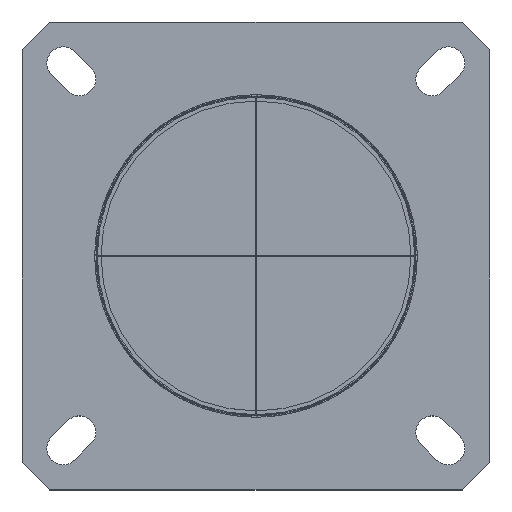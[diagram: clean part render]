
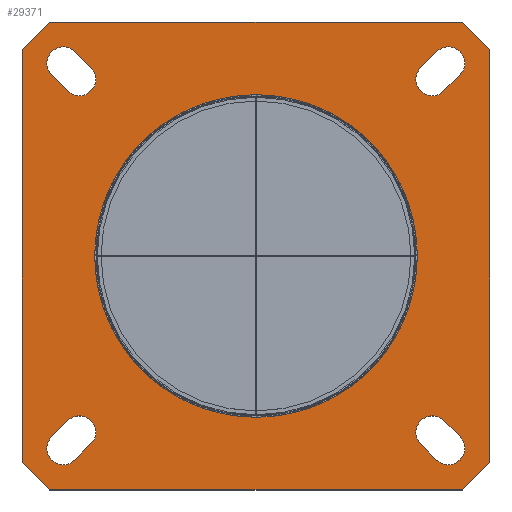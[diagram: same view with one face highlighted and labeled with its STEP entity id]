
A CAD part, top view. The second image highlights one B-rep face of the part: STEP entity #29371.
In plain terms, the highlighted planar face has unit normal (0, 0, 1).
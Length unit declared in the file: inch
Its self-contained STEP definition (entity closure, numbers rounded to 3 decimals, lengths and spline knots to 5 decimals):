
#9814=CARTESIAN_POINT('',(0.,0.,0.));
#9815=DIRECTION('',(0.,0.,1.));
#9816=DIRECTION('',(1.,0.,0.));
#9817=AXIS2_PLACEMENT_3D('',#9814,#9815,#9816);
#12889=DIRECTION('',(0.707,0.707,0.));
#12890=VECTOR('',#12889,0.154);
#12891=CARTESIAN_POINT('',(-0.9115,0.80261,0.));
#12892=LINE('',#12891,#12890);
#12893=DIRECTION('',(1.,0.,0.));
#12894=VECTOR('',#12893,1.60521);
#12895=CARTESIAN_POINT('',(-0.80261,0.9115,0.));
#12896=LINE('',#12895,#12894);
#12897=DIRECTION('',(0.707,-0.707,0.));
#12898=VECTOR('',#12897,0.154);
#12899=CARTESIAN_POINT('',(0.80261,0.9115,0.));
#12900=LINE('',#12899,#12898);
#12901=DIRECTION('',(0.,-1.,0.));
#12902=VECTOR('',#12901,1.60521);
#12903=CARTESIAN_POINT('',(0.9115,0.80261,0.));
#12904=LINE('',#12903,#12902);
#12905=DIRECTION('',(-0.707,-0.707,0.));
#12906=VECTOR('',#12905,0.154);
#12907=CARTESIAN_POINT('',(0.9115,-0.80261,0.));
#12908=LINE('',#12907,#12906);
#12909=DIRECTION('',(-1.,0.,0.));
#12910=VECTOR('',#12909,1.60521);
#12911=CARTESIAN_POINT('',(0.80261,-0.9115,0.));
#12912=LINE('',#12911,#12910);
#12913=DIRECTION('',(-0.707,0.707,0.));
#12914=VECTOR('',#12913,0.154);
#12915=CARTESIAN_POINT('',(-0.80261,-0.9115,0.));
#12916=LINE('',#12915,#12914);
#12917=DIRECTION('',(0.,1.,0.));
#12918=VECTOR('',#12917,1.60521);
#12919=CARTESIAN_POINT('',(-0.9115,-0.80261,0.));
#12920=LINE('',#12919,#12918);
#12921=DIRECTION('',(-0.707,-0.707,0.));
#12922=VECTOR('',#12921,0.08839);
#12923=CARTESIAN_POINT('',(-0.73325,-0.64175,0.));
#12924=LINE('',#12923,#12922);
#12925=CARTESIAN_POINT('',(-0.7505,-0.7495,0.));
#12926=DIRECTION('',(0.,0.,1.));
#12927=DIRECTION('',(-0.707,0.707,0.));
#12928=AXIS2_PLACEMENT_3D('',#12925,#12926,#12927);
#12930=DIRECTION('',(0.707,0.707,0.));
#12931=VECTOR('',#12930,0.08839);
#12932=CARTESIAN_POINT('',(-0.70525,-0.79475,0.));
#12933=LINE('',#12932,#12931);
#12934=CARTESIAN_POINT('',(-0.688,-0.687,0.));
#12935=DIRECTION('',(0.,0.,1.));
#12936=DIRECTION('',(0.707,-0.707,0.));
#12937=AXIS2_PLACEMENT_3D('',#12934,#12935,#12936);
#12939=DIRECTION('',(0.707,-0.707,0.));
#12940=VECTOR('',#12939,0.08839);
#12941=CARTESIAN_POINT('',(-0.79575,0.70525,0.));
#12942=LINE('',#12941,#12940);
#12943=CARTESIAN_POINT('',(-0.688,0.688,0.));
#12944=DIRECTION('',(0.,0.,1.));
#12945=DIRECTION('',(-0.707,-0.707,0.));
#12946=AXIS2_PLACEMENT_3D('',#12943,#12944,#12945);
#12948=DIRECTION('',(-0.707,0.707,0.));
#12949=VECTOR('',#12948,0.08839);
#12950=CARTESIAN_POINT('',(-0.64275,0.73325,0.));
#12951=LINE('',#12950,#12949);
#12952=CARTESIAN_POINT('',(-0.7505,0.7505,0.));
#12953=DIRECTION('',(0.,0.,1.));
#12954=DIRECTION('',(0.707,0.707,0.));
#12955=AXIS2_PLACEMENT_3D('',#12952,#12953,#12954);
#12957=DIRECTION('',(-0.707,-0.707,0.));
#12958=VECTOR('',#12957,0.08839);
#12959=CARTESIAN_POINT('',(0.70425,0.79575,0.));
#12960=LINE('',#12959,#12958);
#12961=CARTESIAN_POINT('',(0.687,0.688,0.));
#12962=DIRECTION('',(0.,0.,1.));
#12963=DIRECTION('',(-0.707,0.707,0.));
#12964=AXIS2_PLACEMENT_3D('',#12961,#12962,#12963);
#12966=DIRECTION('',(0.707,0.707,0.));
#12967=VECTOR('',#12966,0.08839);
#12968=CARTESIAN_POINT('',(0.73225,0.64275,0.));
#12969=LINE('',#12968,#12967);
#12970=CARTESIAN_POINT('',(0.7495,0.7505,0.));
#12971=DIRECTION('',(0.,0.,1.));
#12972=DIRECTION('',(0.707,-0.707,0.));
#12973=AXIS2_PLACEMENT_3D('',#12970,#12971,#12972);
#12975=CARTESIAN_POINT('',(0.687,-0.687,0.));
#12976=DIRECTION('',(0.,0.,1.));
#12977=DIRECTION('',(0.707,0.707,0.));
#12978=AXIS2_PLACEMENT_3D('',#12975,#12976,#12977);
#12980=DIRECTION('',(0.707,-0.707,0.));
#12981=VECTOR('',#12980,0.08839);
#12982=CARTESIAN_POINT('',(0.64175,-0.73225,0.));
#12983=LINE('',#12982,#12981);
#12984=CARTESIAN_POINT('',(0.7495,-0.7495,0.));
#12985=DIRECTION('',(0.,0.,1.));
#12986=DIRECTION('',(-0.707,-0.707,0.));
#12987=AXIS2_PLACEMENT_3D('',#12984,#12985,#12986);
#12989=DIRECTION('',(-0.707,0.707,0.));
#12990=VECTOR('',#12989,0.08839);
#12991=CARTESIAN_POINT('',(0.79475,-0.70425,0.));
#12992=LINE('',#12991,#12990);
#13193=CARTESIAN_POINT('',(0.,0.,0.));
#13194=DIRECTION('',(0.,0.,1.));
#13195=DIRECTION('',(-1.,0.,0.));
#13196=AXIS2_PLACEMENT_3D('',#13193,#13194,#13195);
#22531=CARTESIAN_POINT('',(-0.9115,0.80261,0.));
#22532=CARTESIAN_POINT('',(-0.80261,0.9115,0.));
#22533=VERTEX_POINT('',#22531);
#22534=VERTEX_POINT('',#22532);
#22535=CARTESIAN_POINT('',(0.80261,0.9115,0.));
#22536=VERTEX_POINT('',#22535);
#22537=CARTESIAN_POINT('',(0.9115,0.80261,0.));
#22538=VERTEX_POINT('',#22537);
#22539=CARTESIAN_POINT('',(0.9115,-0.80261,0.));
#22540=VERTEX_POINT('',#22539);
#22541=CARTESIAN_POINT('',(0.80261,-0.9115,0.));
#22542=VERTEX_POINT('',#22541);
#22543=CARTESIAN_POINT('',(-0.80261,-0.9115,0.));
#22544=VERTEX_POINT('',#22543);
#22545=CARTESIAN_POINT('',(-0.9115,-0.80261,0.));
#22546=VERTEX_POINT('',#22545);
#22547=CARTESIAN_POINT('',(-0.73325,-0.64175,0.));
#22548=CARTESIAN_POINT('',(-0.79575,-0.70425,0.));
#22549=VERTEX_POINT('',#22547);
#22550=VERTEX_POINT('',#22548);
#22551=CARTESIAN_POINT('',(-0.70525,-0.79475,0.));
#22552=VERTEX_POINT('',#22551);
#22553=CARTESIAN_POINT('',(-0.64275,-0.73225,0.));
#22554=VERTEX_POINT('',#22553);
#22555=CARTESIAN_POINT('',(-0.79575,0.70525,0.));
#22556=CARTESIAN_POINT('',(-0.73325,0.64275,0.));
#22557=VERTEX_POINT('',#22555);
#22558=VERTEX_POINT('',#22556);
#22559=CARTESIAN_POINT('',(-0.64275,0.73325,0.));
#22560=VERTEX_POINT('',#22559);
#22561=CARTESIAN_POINT('',(-0.70525,0.79575,0.));
#22562=VERTEX_POINT('',#22561);
#22563=CARTESIAN_POINT('',(0.70425,0.79575,0.));
#22564=CARTESIAN_POINT('',(0.64175,0.73325,0.));
#22565=VERTEX_POINT('',#22563);
#22566=VERTEX_POINT('',#22564);
#22567=CARTESIAN_POINT('',(0.73225,0.64275,0.));
#22568=VERTEX_POINT('',#22567);
#22569=CARTESIAN_POINT('',(0.79475,0.70525,0.));
#22570=VERTEX_POINT('',#22569);
#22571=CARTESIAN_POINT('',(0.73225,-0.64175,0.));
#22572=CARTESIAN_POINT('',(0.64175,-0.73225,0.));
#22573=VERTEX_POINT('',#22571);
#22574=VERTEX_POINT('',#22572);
#22575=CARTESIAN_POINT('',(0.70425,-0.79475,0.));
#22576=VERTEX_POINT('',#22575);
#22577=CARTESIAN_POINT('',(0.79475,-0.70425,0.));
#22578=VERTEX_POINT('',#22577);
#22627=CARTESIAN_POINT('',(0.6275,0.,0.));
#22628=CARTESIAN_POINT('',(-0.6275,0.,0.));
#22629=VERTEX_POINT('',#22627);
#22630=VERTEX_POINT('',#22628);
#29303=CARTESIAN_POINT('',(0.,0.,0.));
#29304=DIRECTION('',(0.,0.,-1.));
#29305=DIRECTION('',(0.,-1.,0.));
#29306=AXIS2_PLACEMENT_3D('',#29303,#29304,#29305);
#29307=PLANE('',#29306);
#29309=ORIENTED_EDGE('',*,*,#29308,.T.);
#29311=ORIENTED_EDGE('',*,*,#29310,.T.);
#29313=ORIENTED_EDGE('',*,*,#29312,.T.);
#29315=ORIENTED_EDGE('',*,*,#29314,.T.);
#29317=ORIENTED_EDGE('',*,*,#29316,.T.);
#29319=ORIENTED_EDGE('',*,*,#29318,.T.);
#29321=ORIENTED_EDGE('',*,*,#29320,.T.);
#29323=ORIENTED_EDGE('',*,*,#29322,.T.);
#29324=EDGE_LOOP('',(#29309,#29311,#29313,#29315,#29317,#29319,#29321,#29323));
#29325=FACE_OUTER_BOUND('',#29324,.F.);
#29327=ORIENTED_EDGE('',*,*,#29326,.T.);
#29329=ORIENTED_EDGE('',*,*,#29328,.T.);
#29331=ORIENTED_EDGE('',*,*,#29330,.T.);
#29333=ORIENTED_EDGE('',*,*,#29332,.T.);
#29334=EDGE_LOOP('',(#29327,#29329,#29331,#29333));
#29335=FACE_BOUND('',#29334,.F.);
#29337=ORIENTED_EDGE('',*,*,#29336,.T.);
#29339=ORIENTED_EDGE('',*,*,#29338,.T.);
#29341=ORIENTED_EDGE('',*,*,#29340,.T.);
#29343=ORIENTED_EDGE('',*,*,#29342,.T.);
#29344=EDGE_LOOP('',(#29337,#29339,#29341,#29343));
#29345=FACE_BOUND('',#29344,.F.);
#29347=ORIENTED_EDGE('',*,*,#29346,.T.);
#29349=ORIENTED_EDGE('',*,*,#29348,.T.);
#29351=ORIENTED_EDGE('',*,*,#29350,.T.);
#29353=ORIENTED_EDGE('',*,*,#29352,.T.);
#29354=EDGE_LOOP('',(#29347,#29349,#29351,#29353));
#29355=FACE_BOUND('',#29354,.F.);
#29357=ORIENTED_EDGE('',*,*,#29356,.T.);
#29359=ORIENTED_EDGE('',*,*,#29358,.T.);
#29361=ORIENTED_EDGE('',*,*,#29360,.T.);
#29363=ORIENTED_EDGE('',*,*,#29362,.T.);
#29364=EDGE_LOOP('',(#29357,#29359,#29361,#29363));
#29365=FACE_BOUND('',#29364,.F.);
#29366=ORIENTED_EDGE('',*,*,#28306,.T.);
#29368=ORIENTED_EDGE('',*,*,#29367,.T.);
#29369=EDGE_LOOP('',(#29366,#29368));
#29370=FACE_BOUND('',#29369,.F.);
#29371=ADVANCED_FACE('',(#29325,#29335,#29345,#29355,#29365,#29370),#29307,.F.);
#9818=CIRCLE('',#9817,0.6275);
#12929=CIRCLE('',#12928,0.064);
#12938=CIRCLE('',#12937,0.064);
#12947=CIRCLE('',#12946,0.064);
#12956=CIRCLE('',#12955,0.064);
#12965=CIRCLE('',#12964,0.064);
#12974=CIRCLE('',#12973,0.064);
#12979=CIRCLE('',#12978,0.064);
#12988=CIRCLE('',#12987,0.064);
#13197=CIRCLE('',#13196,0.6275);
#28306=EDGE_CURVE('',#22629,#22630,#9818,.T.);
#29308=EDGE_CURVE('',#22533,#22534,#12892,.T.);
#29310=EDGE_CURVE('',#22534,#22536,#12896,.T.);
#29312=EDGE_CURVE('',#22536,#22538,#12900,.T.);
#29314=EDGE_CURVE('',#22538,#22540,#12904,.T.);
#29316=EDGE_CURVE('',#22540,#22542,#12908,.T.);
#29318=EDGE_CURVE('',#22542,#22544,#12912,.T.);
#29320=EDGE_CURVE('',#22544,#22546,#12916,.T.);
#29322=EDGE_CURVE('',#22546,#22533,#12920,.T.);
#29326=EDGE_CURVE('',#22549,#22550,#12924,.T.);
#29328=EDGE_CURVE('',#22550,#22552,#12929,.T.);
#29330=EDGE_CURVE('',#22552,#22554,#12933,.T.);
#29332=EDGE_CURVE('',#22554,#22549,#12938,.T.);
#29336=EDGE_CURVE('',#22557,#22558,#12942,.T.);
#29338=EDGE_CURVE('',#22558,#22560,#12947,.T.);
#29340=EDGE_CURVE('',#22560,#22562,#12951,.T.);
#29342=EDGE_CURVE('',#22562,#22557,#12956,.T.);
#29346=EDGE_CURVE('',#22565,#22566,#12960,.T.);
#29348=EDGE_CURVE('',#22566,#22568,#12965,.T.);
#29350=EDGE_CURVE('',#22568,#22570,#12969,.T.);
#29352=EDGE_CURVE('',#22570,#22565,#12974,.T.);
#29356=EDGE_CURVE('',#22573,#22574,#12979,.T.);
#29358=EDGE_CURVE('',#22574,#22576,#12983,.T.);
#29360=EDGE_CURVE('',#22576,#22578,#12988,.T.);
#29362=EDGE_CURVE('',#22578,#22573,#12992,.T.);
#29367=EDGE_CURVE('',#22630,#22629,#13197,.T.);
